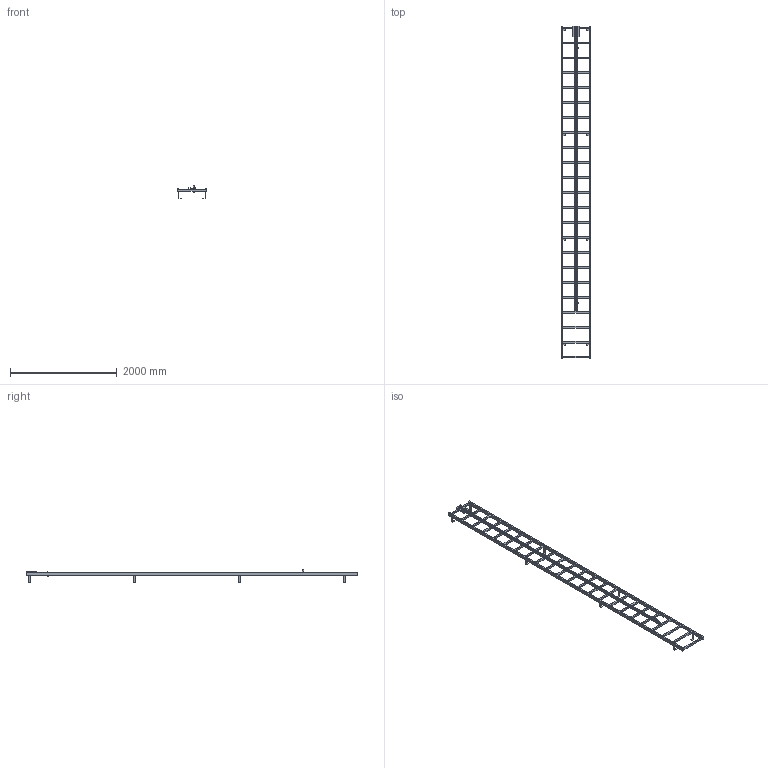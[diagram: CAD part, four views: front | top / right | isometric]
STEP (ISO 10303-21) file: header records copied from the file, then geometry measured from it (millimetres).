
FILE_DESCRIPTION((''),'2;1');
FILE_NAME('52330243','2024-12-05T09:38:22',('wep'),('HUBER SE'),'CREO PARAMETRIC BY PTC INC, 2022162','CREO PARAMETRIC BY PTC INC, 2022162','');
FILE_SCHEMA(('AUTOMOTIVE_DESIGN { 1 0 10303 214 1 1 1 1 }'));
Length unit declared in the file: millimetre
Products named in the file (1): 52330243
Bounding box: 550 x 6210 x 239 mm (x, y, z)
Volume: 28915003.4 mm3; surface area: 4931014.7 mm2
Topology: 2 solids, 2 shells, 368 faces, 1086 edges, 714 vertices
Faces by surface type: plane 368
Entity records: 12785 total; most frequent: ORIENTED_EDGE 2172, CARTESIAN_POINT 2170, DIRECTION 1822, VECTOR 1086, LINE 1086, EDGE_CURVE 1086, VERTEX_POINT 714, EDGE_LOOP 484
